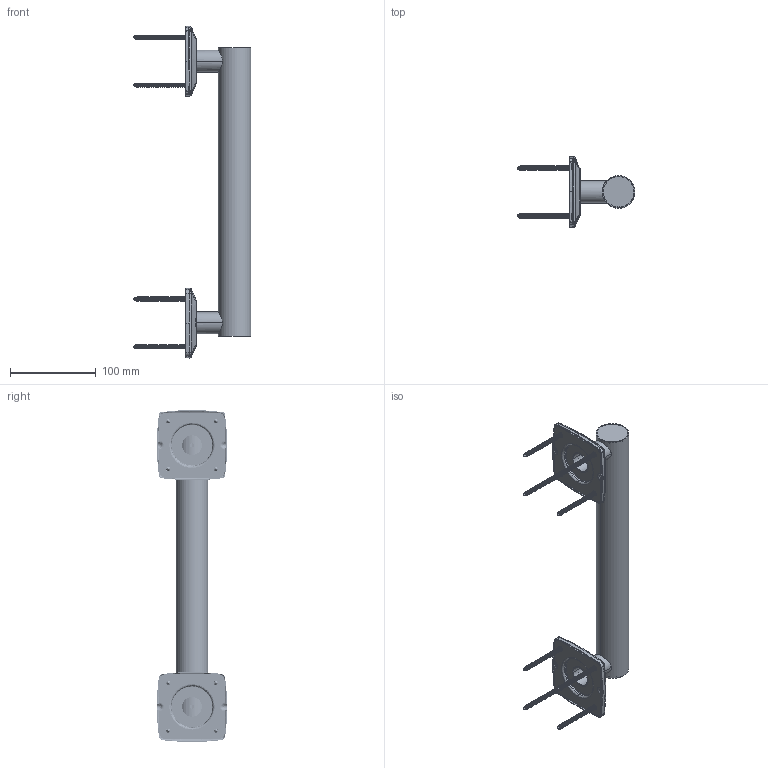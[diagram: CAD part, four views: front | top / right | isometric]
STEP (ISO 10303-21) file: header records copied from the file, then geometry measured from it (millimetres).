
FILE_DESCRIPTION (( 'STEP AP214' ), '1' );
FILE_NAME ('563GB.STEP', '2025-01-02T07:48:51', ( '' ), ( '' ), 'SwSTEP 2.0', 'SolidWorks 2023', '' );
FILE_SCHEMA (( 'AUTOMOTIVE_DESIGN' ));
Products named in the file (1): 563GB
Bounding box: 137.34 x 81.95 x 386.69 mm (x, y, z)
Surface area: 151511.9 mm2 (no closed solid volume)
Topology: 0 solids, 36 shells, 583 faces, 2340 edges, 1662 vertices
Faces by surface type: cylinder 365, bspline 126, plane 52, cone 25, sphere 8, torus 7
Entity records: 76632 total; most frequent: CARTESIAN_POINT 60890, ORIENTED_EDGE 3618, EDGE_CURVE 2336, DIRECTION 2143, VERTEX_POINT 1662, B_SPLINE_CURVE_WITH_KNOTS 1344, AXIS2_PLACEMENT_3D 784, EDGE_LOOP 627
